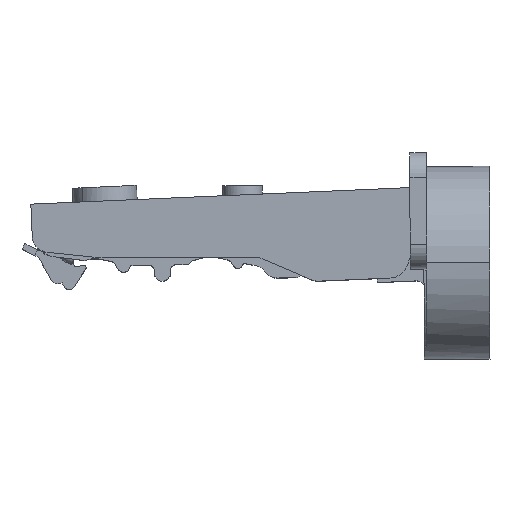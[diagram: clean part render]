
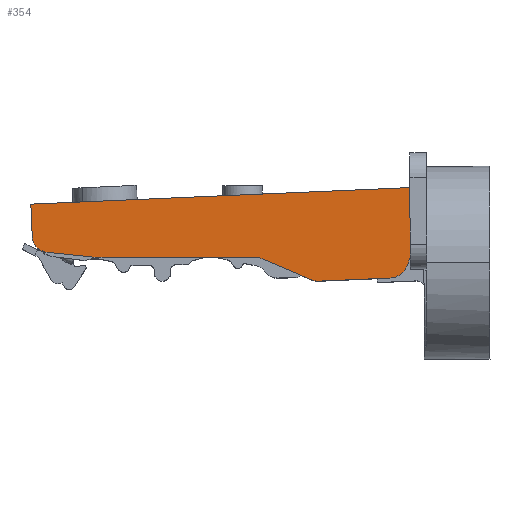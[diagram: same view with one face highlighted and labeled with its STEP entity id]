
A CAD part, top view. The second image highlights one B-rep face of the part: STEP entity #354.
In plain terms, the highlighted planar face has unit normal (0, 0, 1).
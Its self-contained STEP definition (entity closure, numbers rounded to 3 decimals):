
#80 = ORIENTED_EDGE ( 'NONE', *, *, #838, .T. ) ;
#116 = DIRECTION ( 'NONE',  ( -0.995, 0.105, 0. ) ) ;
#125 = AXIS2_PLACEMENT_3D ( 'NONE', #3709, #2944, #4793 ) ;
#128 = LINE ( 'NONE', #2927, #3313 ) ;
#144 = ORIENTED_EDGE ( 'NONE', *, *, #420, .T. ) ;
#159 = CIRCLE ( 'NONE', #1616, 3. ) ;
#193 = CARTESIAN_POINT ( 'NONE',  ( -4.934, -9.42, 8.5 ) ) ;
#228 = VERTEX_POINT ( 'NONE', #4101 ) ;
#270 = CIRCLE ( 'NONE', #3275, 30. ) ;
#307 = LINE ( 'NONE', #4928, #2011 ) ;
#354 = ADVANCED_FACE ( 'NONE', ( #4039 ), #4089, .T. ) ;
#395 = CARTESIAN_POINT ( 'NONE',  ( -29.301, -9.3, 8.5 ) ) ;
#420 = EDGE_CURVE ( 'NONE', #3718, #4143, #3070, .T. ) ;
#440 = DIRECTION ( 'NONE',  ( -1., 0., 0. ) ) ;
#568 = EDGE_CURVE ( 'NONE', #3111, #572, #4687, .T. ) ;
#572 = VERTEX_POINT ( 'NONE', #4662 ) ;
#601 = LINE ( 'NONE', #193, #2276 ) ;
#616 = VECTOR ( 'NONE', #116, 1000. ) ;
#703 = DIRECTION ( 'NONE',  ( 0., 0., -1. ) ) ;
#736 = VERTEX_POINT ( 'NONE', #2154 ) ;
#741 = EDGE_CURVE ( 'NONE', #2862, #2904, #2054, .T. ) ;
#777 = CARTESIAN_POINT ( 'NONE',  ( -21.409, -13.58, 8.5 ) ) ;
#797 = VECTOR ( 'NONE', #4017, 1000. ) ;
#838 = EDGE_CURVE ( 'NONE', #4839, #1355, #3536, .T. ) ;
#1040 = ORIENTED_EDGE ( 'NONE', *, *, #2289, .T. ) ;
#1184 = CARTESIAN_POINT ( 'NONE',  ( -5.407, -10.719, 8.5 ) ) ;
#1233 = ORIENTED_EDGE ( 'NONE', *, *, #1914, .T. ) ;
#1355 = VERTEX_POINT ( 'NONE', #1184 ) ;
#1405 = CARTESIAN_POINT ( 'NONE',  ( -63.136, -9.136, 8.5 ) ) ;
#1417 = ORIENTED_EDGE ( 'NONE', *, *, #3465, .F. ) ;
#1616 = AXIS2_PLACEMENT_3D ( 'NONE', #4541, #4114, #3785 ) ;
#1758 = EDGE_CURVE ( 'NONE', #1355, #736, #601, .T. ) ;
#1787 = CARTESIAN_POINT ( 'NONE',  ( -70.559, -8.355, 8.5 ) ) ;
#1795 = CARTESIAN_POINT ( 'NONE',  ( -73.499, 0.351, 8.5 ) ) ;
#1895 = LINE ( 'NONE', #3445, #4320 ) ;
#1901 = CARTESIAN_POINT ( 'NONE',  ( -32.444, -10.3, 8.5 ) ) ;
#1914 = EDGE_CURVE ( 'NONE', #3111, #228, #3241, .T. ) ;
#1928 = DIRECTION ( 'NONE',  ( 0., 0., -1. ) ) ;
#1962 = CARTESIAN_POINT ( 'NONE',  ( -32.444, -9.3, 8.5 ) ) ;
#2011 = VECTOR ( 'NONE', #4954, 1000. ) ;
#2016 = EDGE_CURVE ( 'NONE', #2904, #3384, #4288, .T. ) ;
#2054 = LINE ( 'NONE', #3704, #616 ) ;
#2154 = CARTESIAN_POINT ( 'NONE',  ( -4.9, -9.327, 8.5 ) ) ;
#2162 = ORIENTED_EDGE ( 'NONE', *, *, #568, .F. ) ;
#2230 = ORIENTED_EDGE ( 'NONE', *, *, #4304, .T. ) ;
#2276 = VECTOR ( 'NONE', #3705, 1000. ) ;
#2289 = EDGE_CURVE ( 'NONE', #2354, #2295, #159, .T. ) ;
#2295 = VERTEX_POINT ( 'NONE', #777 ) ;
#2354 = VERTEX_POINT ( 'NONE', #2454 ) ;
#2402 = VECTOR ( 'NONE', #440, 1000. ) ;
#2436 = ORIENTED_EDGE ( 'NONE', *, *, #2016, .F. ) ;
#2454 = CARTESIAN_POINT ( 'NONE',  ( -22.712, -13.345, 8.5 ) ) ;
#2732 = CARTESIAN_POINT ( 'NONE',  ( -73.243, -5.503, 8.5 ) ) ;
#2744 = ORIENTED_EDGE ( 'NONE', *, *, #741, .F. ) ;
#2795 = CARTESIAN_POINT ( 'NONE',  ( -60., 20.7, 8.5 ) ) ;
#2862 = VERTEX_POINT ( 'NONE', #1405 ) ;
#2904 = VERTEX_POINT ( 'NONE', #1787 ) ;
#2927 = CARTESIAN_POINT ( 'NONE',  ( -32.053, -9.379, 8.5 ) ) ;
#2944 = DIRECTION ( 'NONE',  ( 0., 0., 1. ) ) ;
#2980 = EDGE_CURVE ( 'NONE', #3718, #736, #307, .T. ) ;
#3012 = ORIENTED_EDGE ( 'NONE', *, *, #1758, .T. ) ;
#3049 = CARTESIAN_POINT ( 'NONE',  ( -4.935, 3.344, 8.5 ) ) ;
#3070 = LINE ( 'NONE', #3838, #3864 ) ;
#3075 = EDGE_LOOP ( 'NONE', ( #3330, #144, #1417, #2436, #2744, #3990, #2162, #1233, #3287, #1040, #2230, #80, #3012 ) ) ;
#3111 = VERTEX_POINT ( 'NONE', #1962 ) ;
#3204 = CARTESIAN_POINT ( 'NONE',  ( -73.498, 0.343, 8.5 ) ) ;
#3223 = DIRECTION ( 'NONE',  ( -1., 0., 0. ) ) ;
#3241 = CIRCLE ( 'NONE', #3324, 1. ) ;
#3275 = AXIS2_PLACEMENT_3D ( 'NONE', #2795, #4384, #3223 ) ;
#3287 = ORIENTED_EDGE ( 'NONE', *, *, #3568, .T. ) ;
#3313 = VECTOR ( 'NONE', #4469, 1000. ) ;
#3324 = AXIS2_PLACEMENT_3D ( 'NONE', #1901, #703, #3453 ) ;
#3330 = ORIENTED_EDGE ( 'NONE', *, *, #2980, .F. ) ;
#3384 = VERTEX_POINT ( 'NONE', #2732 ) ;
#3445 = CARTESIAN_POINT ( 'NONE',  ( -21.861, -13.6, 8.5 ) ) ;
#3453 = DIRECTION ( 'NONE',  ( 1., 0., 0. ) ) ;
#3465 = EDGE_CURVE ( 'NONE', #3384, #4143, #3686, .T. ) ;
#3523 = DIRECTION ( 'NONE',  ( 1., 0., 0. ) ) ;
#3536 = CIRCLE ( 'NONE', #4267, 3.5 ) ;
#3568 = EDGE_CURVE ( 'NONE', #228, #2354, #128, .T. ) ;
#3686 = LINE ( 'NONE', #3204, #797 ) ;
#3704 = CARTESIAN_POINT ( 'NONE',  ( -70.559, -8.355, 8.5 ) ) ;
#3705 = DIRECTION ( 'NONE',  ( 0.342, 0.94, 0. ) ) ;
#3709 = CARTESIAN_POINT ( 'NONE',  ( 1.3, 0.311, 8.5 ) ) ;
#3711 = CARTESIAN_POINT ( 'NONE',  ( -8.543, -13.018, 8.5 ) ) ;
#3718 = VERTEX_POINT ( 'NONE', #3049 ) ;
#3785 = DIRECTION ( 'NONE',  ( 1., 0., 0. ) ) ;
#3838 = CARTESIAN_POINT ( 'NONE',  ( -2.093, 3.468, 8.5 ) ) ;
#3864 = VECTOR ( 'NONE', #4165, 1000. ) ;
#3967 = AXIS2_PLACEMENT_3D ( 'NONE', #4277, #1928, #3523 ) ;
#3990 = ORIENTED_EDGE ( 'NONE', *, *, #4990, .F. ) ;
#4017 = DIRECTION ( 'NONE',  ( -0.044, 0.999, 0. ) ) ;
#4039 = FACE_OUTER_BOUND ( 'NONE', #3075, .T. ) ;
#4089 = PLANE ( 'NONE',  #125 ) ;
#4101 = CARTESIAN_POINT ( 'NONE',  ( -32.053, -9.379, 8.5 ) ) ;
#4114 = DIRECTION ( 'NONE',  ( 0., 0., 1. ) ) ;
#4143 = VERTEX_POINT ( 'NONE', #1795 ) ;
#4165 = DIRECTION ( 'NONE',  ( -0.999, -0.044, 0. ) ) ;
#4211 = CARTESIAN_POINT ( 'NONE',  ( -8.696, -9.522, 8.5 ) ) ;
#4267 = AXIS2_PLACEMENT_3D ( 'NONE', #4211, #4481, #4537 ) ;
#4277 = CARTESIAN_POINT ( 'NONE',  ( -70.246, -5.372, 8.5 ) ) ;
#4288 = CIRCLE ( 'NONE', #3967, 3. ) ;
#4304 = EDGE_CURVE ( 'NONE', #2295, #4839, #1895, .T. ) ;
#4320 = VECTOR ( 'NONE', #4984, 1000. ) ;
#4384 = DIRECTION ( 'NONE',  ( 0., 0., -1. ) ) ;
#4469 = DIRECTION ( 'NONE',  ( 0.921, -0.391, 0. ) ) ;
#4481 = DIRECTION ( 'NONE',  ( 0., 0., 1. ) ) ;
#4537 = DIRECTION ( 'NONE',  ( 1., 0., 0. ) ) ;
#4541 = CARTESIAN_POINT ( 'NONE',  ( -21.54, -10.583, 8.5 ) ) ;
#4662 = CARTESIAN_POINT ( 'NONE',  ( -60., -9.3, 8.5 ) ) ;
#4687 = LINE ( 'NONE', #395, #2402 ) ;
#4793 = DIRECTION ( 'NONE',  ( 1., 0., 0. ) ) ;
#4839 = VERTEX_POINT ( 'NONE', #3711 ) ;
#4928 = CARTESIAN_POINT ( 'NONE',  ( -4.927, 0.294, 8.5 ) ) ;
#4954 = DIRECTION ( 'NONE',  ( 0.003, -1., 0. ) ) ;
#4984 = DIRECTION ( 'NONE',  ( 0.999, 0.044, 0. ) ) ;
#4990 = EDGE_CURVE ( 'NONE', #572, #2862, #270, .T. ) ;
